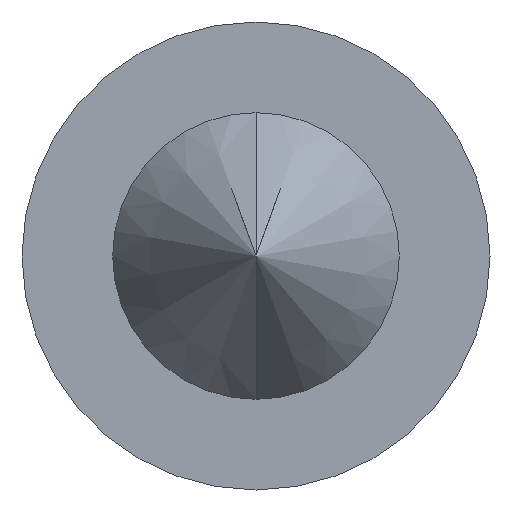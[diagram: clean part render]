
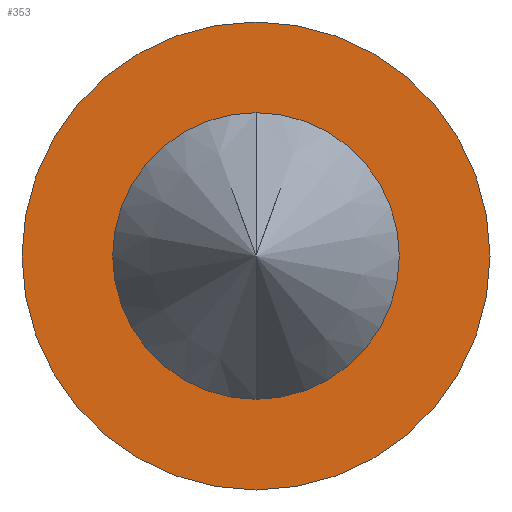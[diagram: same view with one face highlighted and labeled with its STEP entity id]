
A CAD part, front view. The second image highlights one B-rep face of the part: STEP entity #353.
In plain terms, the highlighted planar face has unit normal (0, -1, 0).
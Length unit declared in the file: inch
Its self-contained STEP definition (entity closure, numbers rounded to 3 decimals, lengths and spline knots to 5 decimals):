
#16 = AXIS2_PLACEMENT_3D ( 'NONE', #225, #325, #135 ) ;
#18 = FACE_BOUND ( 'NONE', #279, .T. ) ;
#84 = CARTESIAN_POINT ( 'NONE',  ( 0., -0.25084, 0. ) ) ;
#87 = AXIS2_PLACEMENT_3D ( 'NONE', #258, #233, #205 ) ;
#88 = EDGE_CURVE ( 'NONE', #223, #309, #322, .T. ) ;
#94 = CARTESIAN_POINT ( 'NONE',  ( 0., -0.25084, 0. ) ) ;
#109 = ORIENTED_EDGE ( 'NONE', *, *, #149, .T. ) ;
#135 = DIRECTION ( 'NONE',  ( 0., 0., -1. ) ) ;
#149 = EDGE_CURVE ( 'NONE', #270, #273, #394, .T. ) ;
#156 = CIRCLE ( 'NONE', #381, 0.1975 ) ;
#164 = EDGE_CURVE ( 'NONE', #309, #223, #310, .T. ) ;
#171 = ORIENTED_EDGE ( 'NONE', *, *, #312, .T. ) ;
#172 = PLANE ( 'NONE',  #16 ) ;
#180 = DIRECTION ( 'NONE',  ( 0., 0., -1. ) ) ;
#195 = FACE_OUTER_BOUND ( 'NONE', #226, .T. ) ;
#205 = DIRECTION ( 'NONE',  ( 0., 0., -1. ) ) ;
#212 = DIRECTION ( 'NONE',  ( 0., -1., 0. ) ) ;
#217 = ORIENTED_EDGE ( 'NONE', *, *, #164, .F. ) ;
#223 = VERTEX_POINT ( 'NONE', #243 ) ;
#225 = CARTESIAN_POINT ( 'NONE',  ( 0., -0.25084, -0.121 ) ) ;
#226 = EDGE_LOOP ( 'NONE', ( #171, #109 ) ) ;
#227 = AXIS2_PLACEMENT_3D ( 'NONE', #84, #297, #180 ) ;
#231 = DIRECTION ( 'NONE',  ( 0., -1., 0. ) ) ;
#233 = DIRECTION ( 'NONE',  ( 0., -1., 0. ) ) ;
#238 = CARTESIAN_POINT ( 'NONE',  ( 0., -0.25084, -0.1975 ) ) ;
#243 = CARTESIAN_POINT ( 'NONE',  ( 0., -0.25084, -0.121 ) ) ;
#246 = ORIENTED_EDGE ( 'NONE', *, *, #88, .F. ) ;
#258 = CARTESIAN_POINT ( 'NONE',  ( 0., -0.25084, 0. ) ) ;
#267 = CARTESIAN_POINT ( 'NONE',  ( 0., -0.25084, 0.1975 ) ) ;
#270 = VERTEX_POINT ( 'NONE', #267 ) ;
#273 = VERTEX_POINT ( 'NONE', #238 ) ;
#279 = EDGE_LOOP ( 'NONE', ( #246, #217 ) ) ;
#297 = DIRECTION ( 'NONE',  ( 0., -1., 0. ) ) ;
#309 = VERTEX_POINT ( 'NONE', #337 ) ;
#310 = CIRCLE ( 'NONE', #227, 0.121 ) ;
#312 = EDGE_CURVE ( 'NONE', #273, #270, #156, .T. ) ;
#322 = CIRCLE ( 'NONE', #338, 0.121 ) ;
#325 = DIRECTION ( 'NONE',  ( 0., -1., 0. ) ) ;
#334 = DIRECTION ( 'NONE',  ( 0., 0., -1. ) ) ;
#337 = CARTESIAN_POINT ( 'NONE',  ( 0., -0.25084, 0.121 ) ) ;
#338 = AXIS2_PLACEMENT_3D ( 'NONE', #386, #231, #334 ) ;
#340 = DIRECTION ( 'NONE',  ( 0., 0., -1. ) ) ;
#353 = ADVANCED_FACE ( 'NONE', ( #195, #18 ), #172, .T. ) ;
#381 = AXIS2_PLACEMENT_3D ( 'NONE', #94, #212, #340 ) ;
#386 = CARTESIAN_POINT ( 'NONE',  ( 0., -0.25084, 0. ) ) ;
#394 = CIRCLE ( 'NONE', #87, 0.1975 ) ;
